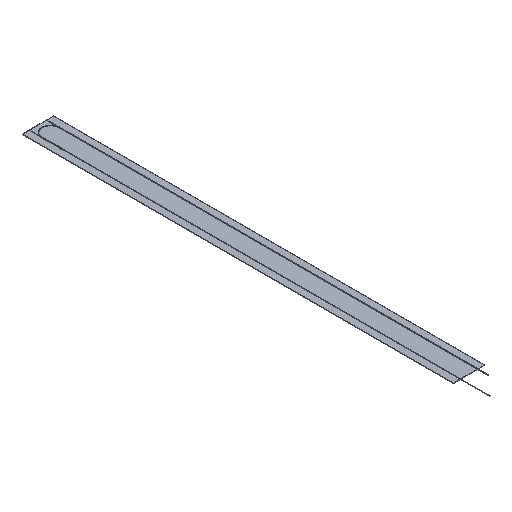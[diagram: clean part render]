
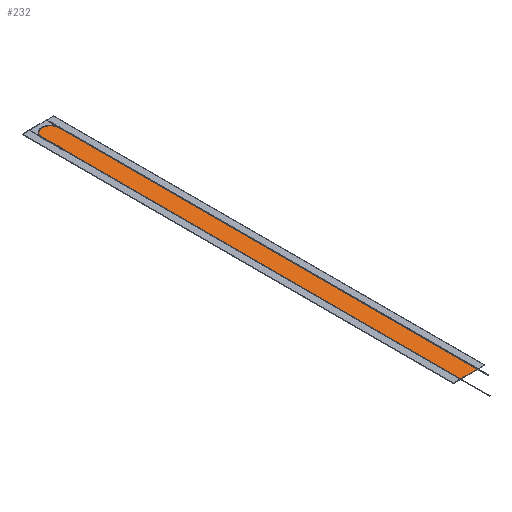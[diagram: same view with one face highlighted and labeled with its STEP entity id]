
A CAD part, isometric view. The second image highlights one B-rep face of the part: STEP entity #232.
In plain terms, the highlighted planar face has unit normal (0, 0, 1).
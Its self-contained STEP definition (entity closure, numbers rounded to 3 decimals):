
#174=CIRCLE('',#1420,1.5);
#175=CIRCLE('',#1422,48.2);
#176=CIRCLE('',#1423,1.5);
#177=CIRCLE('',#1424,1.5);
#178=CIRCLE('',#1425,1.5);
#232=ADVANCED_FACE('',(#349),#302,.T.);
#302=PLANE('',#1426);
#349=FACE_OUTER_BOUND('',#411,.T.);
#411=EDGE_LOOP('',(#560,#561,#562,#563,#564,#565,#566,#567,#568,#569,#570,
#571,#572,#573,#574,#575));
#560=ORIENTED_EDGE('',*,*,#992,.T.);
#561=ORIENTED_EDGE('',*,*,#1045,.T.);
#562=ORIENTED_EDGE('',*,*,#1046,.F.);
#563=ORIENTED_EDGE('',*,*,#1047,.T.);
#564=ORIENTED_EDGE('',*,*,#1048,.F.);
#565=ORIENTED_EDGE('',*,*,#1043,.T.);
#566=ORIENTED_EDGE('',*,*,#1049,.T.);
#567=ORIENTED_EDGE('',*,*,#1050,.T.);
#568=ORIENTED_EDGE('',*,*,#1051,.F.);
#569=ORIENTED_EDGE('',*,*,#1052,.T.);
#570=ORIENTED_EDGE('',*,*,#1053,.T.);
#571=ORIENTED_EDGE('',*,*,#1054,.F.);
#572=ORIENTED_EDGE('',*,*,#1055,.T.);
#573=ORIENTED_EDGE('',*,*,#1056,.F.);
#574=ORIENTED_EDGE('',*,*,#1057,.T.);
#575=ORIENTED_EDGE('',*,*,#1058,.F.);
#868=VERTEX_POINT('',#1919);
#869=VERTEX_POINT('',#1921);
#908=VERTEX_POINT('',#2145);
#909=VERTEX_POINT('',#2147);
#910=VERTEX_POINT('',#2151);
#911=VERTEX_POINT('',#2153);
#912=VERTEX_POINT('',#2155);
#913=VERTEX_POINT('',#2158);
#914=VERTEX_POINT('',#2160);
#915=VERTEX_POINT('',#2162);
#916=VERTEX_POINT('',#2164);
#917=VERTEX_POINT('',#2166);
#918=VERTEX_POINT('',#2168);
#919=VERTEX_POINT('',#2170);
#920=VERTEX_POINT('',#2172);
#921=VERTEX_POINT('',#2174);
#992=EDGE_CURVE('',#869,#868,#1178,.T.);
#1043=EDGE_CURVE('',#909,#908,#174,.T.);
#1045=EDGE_CURVE('',#868,#910,#1203,.T.);
#1046=EDGE_CURVE('',#911,#910,#1204,.T.);
#1047=EDGE_CURVE('',#911,#912,#1205,.T.);
#1048=EDGE_CURVE('',#909,#912,#1206,.T.);
#1049=EDGE_CURVE('',#908,#913,#1207,.T.);
#1050=EDGE_CURVE('',#913,#914,#175,.T.);
#1051=EDGE_CURVE('',#915,#914,#1208,.T.);
#1052=EDGE_CURVE('',#915,#916,#176,.T.);
#1053=EDGE_CURVE('',#916,#917,#1209,.T.);
#1054=EDGE_CURVE('',#918,#917,#1210,.T.);
#1055=EDGE_CURVE('',#918,#919,#177,.T.);
#1056=EDGE_CURVE('',#920,#919,#1211,.T.);
#1057=EDGE_CURVE('',#920,#921,#178,.T.);
#1058=EDGE_CURVE('',#869,#921,#1212,.T.);
#1178=LINE('',#1920,#1286);
#1203=LINE('',#2150,#1311);
#1204=LINE('',#2152,#1312);
#1205=LINE('',#2154,#1313);
#1206=LINE('',#2156,#1314);
#1207=LINE('',#2157,#1315);
#1208=LINE('',#2161,#1316);
#1209=LINE('',#2165,#1317);
#1210=LINE('',#2167,#1318);
#1211=LINE('',#2171,#1319);
#1212=LINE('',#2175,#1320);
#1286=VECTOR('',#1534,1.);
#1311=VECTOR('',#1617,1.);
#1312=VECTOR('',#1618,1.);
#1313=VECTOR('',#1619,1.);
#1314=VECTOR('',#1620,1.);
#1315=VECTOR('',#1621,1.);
#1316=VECTOR('',#1624,1.);
#1317=VECTOR('',#1627,1.);
#1318=VECTOR('',#1628,1.);
#1319=VECTOR('',#1631,1.);
#1320=VECTOR('',#1634,1.);
#1420=AXIS2_PLACEMENT_3D('',#2146,#1612,#1613);
#1422=AXIS2_PLACEMENT_3D('',#2159,#1622,#1623);
#1423=AXIS2_PLACEMENT_3D('',#2163,#1625,#1626);
#1424=AXIS2_PLACEMENT_3D('',#2169,#1629,#1630);
#1425=AXIS2_PLACEMENT_3D('',#2173,#1632,#1633);
#1426=AXIS2_PLACEMENT_3D('',#2176,#1635,#1636);
#1534=DIRECTION('',(0.,-1.,0.));
#1612=DIRECTION('',(0.,0.,-1.));
#1613=DIRECTION('',(1.,0.,0.));
#1617=DIRECTION('',(0.087,-0.996,0.));
#1618=DIRECTION('',(-1.,0.,0.));
#1619=DIRECTION('',(0.087,0.996,0.));
#1620=DIRECTION('',(0.,-1.,0.));
#1621=DIRECTION('',(0.,1.,0.));
#1622=DIRECTION('',(0.,0.,1.));
#1623=DIRECTION('',(1.,0.,0.));
#1624=DIRECTION('',(0.,1.,0.));
#1625=DIRECTION('',(0.,0.,-1.));
#1626=DIRECTION('',(1.,0.,0.));
#1627=DIRECTION('',(0.,-1.,0.));
#1628=DIRECTION('',(-1.,0.,0.));
#1629=DIRECTION('',(0.,0.,-1.));
#1630=DIRECTION('',(1.,0.,0.));
#1631=DIRECTION('',(0.,1.,0.));
#1632=DIRECTION('',(0.,0.,-1.));
#1633=DIRECTION('',(1.,0.,0.));
#1634=DIRECTION('',(1.,0.,0.));
#1635=DIRECTION('',(0.,0.,1.));
#1636=DIRECTION('',(1.,0.,0.));
#1919=CARTESIAN_POINT('',(43.55,10.,3.));
#1920=CARTESIAN_POINT('',(43.55,2500.,3.));
#1921=CARTESIAN_POINT('',(43.55,2313.15,3.));
#2145=CARTESIAN_POINT('',(140.2,2377.5,3.));
#2146=CARTESIAN_POINT('',(141.7,2377.5,3.));
#2147=CARTESIAN_POINT('',(140.45,2376.671,3.));
#2150=CARTESIAN_POINT('',(-172.666,2481.355,3.));
#2151=CARTESIAN_POINT('',(44.425,0.,3.));
#2152=CARTESIAN_POINT('',(40.45,0.,3.));
#2153=CARTESIAN_POINT('',(139.575,0.,3.));
#2154=CARTESIAN_POINT('',(355.882,2472.403,3.));
#2155=CARTESIAN_POINT('',(140.45,10.,3.));
#2156=CARTESIAN_POINT('',(140.45,2500.,3.));
#2157=CARTESIAN_POINT('',(140.2,2376.,3.));
#2158=CARTESIAN_POINT('',(140.2,2426.,3.));
#2159=CARTESIAN_POINT('',(92.,2426.,3.));
#2160=CARTESIAN_POINT('',(43.8,2426.,3.));
#2161=CARTESIAN_POINT('',(43.8,2376.,3.));
#2162=CARTESIAN_POINT('',(43.8,2377.5,3.));
#2163=CARTESIAN_POINT('',(42.3,2377.5,3.));
#2164=CARTESIAN_POINT('',(43.55,2376.671,3.));
#2165=CARTESIAN_POINT('',(43.55,2500.,3.));
#2166=CARTESIAN_POINT('',(43.55,2338.25,3.));
#2167=CARTESIAN_POINT('',(45.5,2338.25,3.));
#2168=CARTESIAN_POINT('',(44.,2338.25,3.));
#2169=CARTESIAN_POINT('',(44.,2336.75,3.));
#2170=CARTESIAN_POINT('',(45.5,2336.75,3.));
#2171=CARTESIAN_POINT('',(45.5,2313.15,3.));
#2172=CARTESIAN_POINT('',(45.5,2314.65,3.));
#2173=CARTESIAN_POINT('',(44.,2314.65,3.));
#2174=CARTESIAN_POINT('',(44.,2313.15,3.));
#2175=CARTESIAN_POINT('',(38.5,2313.15,3.));
#2176=CARTESIAN_POINT('',(40.45,2500.,3.));
